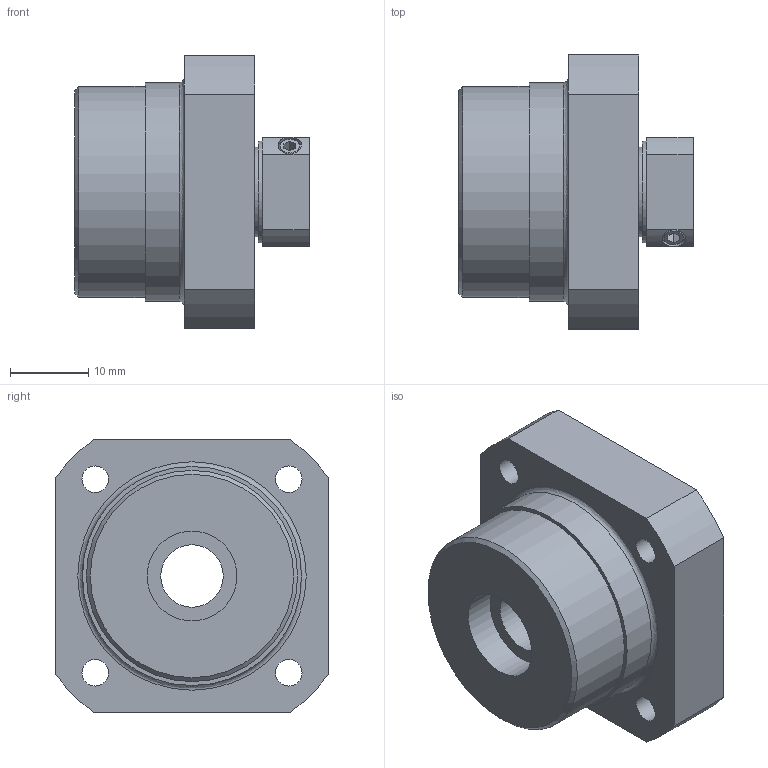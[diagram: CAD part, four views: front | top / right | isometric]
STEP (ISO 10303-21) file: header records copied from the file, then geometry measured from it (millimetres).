
FILE_DESCRIPTION((''),'2;1');
FILE_NAME('D:\製品 (図面)\カタログ用3D\ネジ関連\STEP形式\SUF\SUF8.stp','2010-06-02T14:48:10',('Tsuchiya'),(''),'Autodesk Inventor 10','Autodesk Inventor 10','');
FILE_SCHEMA(('AUTOMOTIVE_DESIGN { 1 0 10303 214 1 1 1 1 }'));
Length unit declared in the file: millimetre
Products named in the file (1): SUF8
Bounding box: 30 x 35 x 35 mm (x, y, z)
Volume: 17332 mm3; surface area: 6645.2 mm2
Topology: 2 solids, 2 shells, 66 faces, 150 edges, 100 vertices
Faces by surface type: plane 26, bspline 21, cylinder 16, cone 3
Full cylindrical faces by diameter (mm): 3 x1, 8 x2, 11.5 x2, 13 x1, 27 x1, 28 x1
Entity records: 1988 total; most frequent: CARTESIAN_POINT 651, DIRECTION 262, ORIENTED_EDGE 224, EDGE_LOOP 118, EDGE_CURVE 112, AXIS2_PLACEMENT_3D 106, VERTEX_POINT 90, FACE_OUTER_BOUND 66
